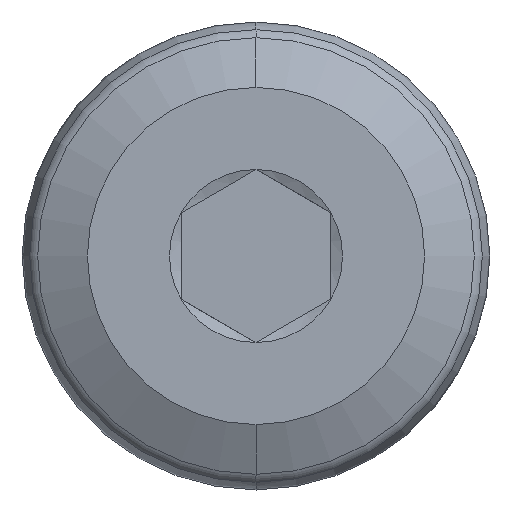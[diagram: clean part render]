
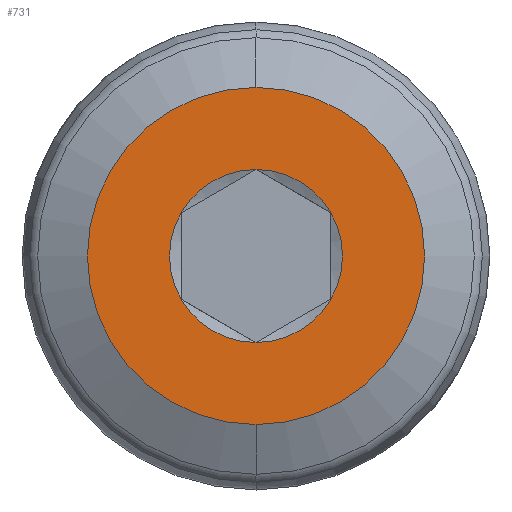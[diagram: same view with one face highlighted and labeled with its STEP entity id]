
A CAD part, left-side view. The second image highlights one B-rep face of the part: STEP entity #731.
In plain terms, the highlighted planar face has unit normal (-1, 0, 0).
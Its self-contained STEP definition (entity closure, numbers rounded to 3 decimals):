
#10 = DIRECTION ( 'NONE',  ( 1., 0., 0. ) ) ;
#25 = CARTESIAN_POINT ( 'NONE',  ( 0., 0., 4.5 ) ) ;
#30 = CARTESIAN_POINT ( 'NONE',  ( 0., 0., 0. ) ) ;
#33 = ORIENTED_EDGE ( 'NONE', *, *, #783, .T. ) ;
#37 = EDGE_CURVE ( 'NONE', #457, #254, #719, .T. ) ;
#49 = EDGE_CURVE ( 'NONE', #381, #290, #637, .T. ) ;
#52 = CARTESIAN_POINT ( 'NONE',  ( 0., 0., -4.5 ) ) ;
#67 = CARTESIAN_POINT ( 'NONE',  ( 0., 0., 0. ) ) ;
#114 = EDGE_CURVE ( 'NONE', #290, #381, #344, .T. ) ;
#166 = VERTEX_POINT ( 'NONE', #226 ) ;
#181 = EDGE_CURVE ( 'NONE', #660, #457, #452, .T. ) ;
#194 = CIRCLE ( 'NONE', #612, 2.309 ) ;
#198 = DIRECTION ( 'NONE',  ( 1., 0., 0. ) ) ;
#202 = CARTESIAN_POINT ( 'NONE',  ( 0., 2., 1.155 ) ) ;
#226 = CARTESIAN_POINT ( 'NONE',  ( 0., -2., -1.155 ) ) ;
#231 = ORIENTED_EDGE ( 'NONE', *, *, #49, .F. ) ;
#236 = DIRECTION ( 'NONE',  ( 0., 0., 1. ) ) ;
#237 = CIRCLE ( 'NONE', #507, 2.309 ) ;
#254 = VERTEX_POINT ( 'NONE', #554 ) ;
#258 = CARTESIAN_POINT ( 'NONE',  ( 0., 0., 0. ) ) ;
#261 = DIRECTION ( 'NONE',  ( 0., 0., -1. ) ) ;
#290 = VERTEX_POINT ( 'NONE', #25 ) ;
#294 = DIRECTION ( 'NONE',  ( 1., 0., 0. ) ) ;
#303 = DIRECTION ( 'NONE',  ( 1., 0., 0. ) ) ;
#308 = DIRECTION ( 'NONE',  ( 1., 0., 0. ) ) ;
#311 = DIRECTION ( 'NONE',  ( 0., 0., -1. ) ) ;
#326 = DIRECTION ( 'NONE',  ( 1., 0., 0. ) ) ;
#337 = VERTEX_POINT ( 'NONE', #627 ) ;
#340 = EDGE_CURVE ( 'NONE', #254, #592, #827, .T. ) ;
#342 = CARTESIAN_POINT ( 'NONE',  ( 0., -2., 1.155 ) ) ;
#344 = CIRCLE ( 'NONE', #622, 4.5 ) ;
#346 = ORIENTED_EDGE ( 'NONE', *, *, #738, .T. ) ;
#367 = CARTESIAN_POINT ( 'NONE',  ( 0., 0., 0. ) ) ;
#381 = VERTEX_POINT ( 'NONE', #52 ) ;
#391 = DIRECTION ( 'NONE',  ( 1., 0., 0. ) ) ;
#393 = ORIENTED_EDGE ( 'NONE', *, *, #340, .T. ) ;
#402 = ORIENTED_EDGE ( 'NONE', *, *, #37, .T. ) ;
#406 = EDGE_CURVE ( 'NONE', #337, #660, #237, .T. ) ;
#424 = CARTESIAN_POINT ( 'NONE',  ( 0., 4.5, 0. ) ) ;
#428 = AXIS2_PLACEMENT_3D ( 'NONE', #617, #308, #311 ) ;
#436 = AXIS2_PLACEMENT_3D ( 'NONE', #67, #326, #578 ) ;
#452 = CIRCLE ( 'NONE', #505, 2.309 ) ;
#457 = VERTEX_POINT ( 'NONE', #202 ) ;
#470 = AXIS2_PLACEMENT_3D ( 'NONE', #367, #691, #501 ) ;
#488 = FACE_OUTER_BOUND ( 'NONE', #599, .T. ) ;
#501 = DIRECTION ( 'NONE',  ( 0., 0., -1. ) ) ;
#503 = DIRECTION ( 'NONE',  ( -1., 0., 0. ) ) ;
#505 = AXIS2_PLACEMENT_3D ( 'NONE', #30, #294, #595 ) ;
#507 = AXIS2_PLACEMENT_3D ( 'NONE', #258, #10, #577 ) ;
#534 = AXIS2_PLACEMENT_3D ( 'NONE', #726, #198, #261 ) ;
#537 = EDGE_LOOP ( 'NONE', ( #402, #393, #33, #346, #642, #703 ) ) ;
#538 = CARTESIAN_POINT ( 'NONE',  ( 0., 2., -1.155 ) ) ;
#554 = CARTESIAN_POINT ( 'NONE',  ( 0., 0., 2.309 ) ) ;
#559 = AXIS2_PLACEMENT_3D ( 'NONE', #424, #503, #236 ) ;
#562 = DIRECTION ( 'NONE',  ( 0., 0., -1. ) ) ;
#577 = DIRECTION ( 'NONE',  ( 0., 0., -1. ) ) ;
#578 = DIRECTION ( 'NONE',  ( 0., 0., -1. ) ) ;
#592 = VERTEX_POINT ( 'NONE', #342 ) ;
#595 = DIRECTION ( 'NONE',  ( 0., 0., -1. ) ) ;
#599 = EDGE_LOOP ( 'NONE', ( #231, #812 ) ) ;
#612 = AXIS2_PLACEMENT_3D ( 'NONE', #696, #303, #562 ) ;
#617 = CARTESIAN_POINT ( 'NONE',  ( 0., 0., 0. ) ) ;
#622 = AXIS2_PLACEMENT_3D ( 'NONE', #708, #391, #804 ) ;
#627 = CARTESIAN_POINT ( 'NONE',  ( 0., 0., -2.309 ) ) ;
#637 = CIRCLE ( 'NONE', #534, 4.5 ) ;
#642 = ORIENTED_EDGE ( 'NONE', *, *, #406, .T. ) ;
#660 = VERTEX_POINT ( 'NONE', #538 ) ;
#691 = DIRECTION ( 'NONE',  ( 1., 0., 0. ) ) ;
#696 = CARTESIAN_POINT ( 'NONE',  ( 0., 0., 0. ) ) ;
#703 = ORIENTED_EDGE ( 'NONE', *, *, #181, .T. ) ;
#708 = CARTESIAN_POINT ( 'NONE',  ( 0., 0., 0. ) ) ;
#719 = CIRCLE ( 'NONE', #436, 2.309 ) ;
#726 = CARTESIAN_POINT ( 'NONE',  ( 0., 0., 0. ) ) ;
#731 = ADVANCED_FACE ( 'NONE', ( #807, #488 ), #743, .T. ) ;
#738 = EDGE_CURVE ( 'NONE', #166, #337, #792, .T. ) ;
#743 = PLANE ( 'NONE',  #559 ) ;
#783 = EDGE_CURVE ( 'NONE', #592, #166, #194, .T. ) ;
#792 = CIRCLE ( 'NONE', #428, 2.309 ) ;
#804 = DIRECTION ( 'NONE',  ( 0., 0., -1. ) ) ;
#807 = FACE_BOUND ( 'NONE', #537, .T. ) ;
#812 = ORIENTED_EDGE ( 'NONE', *, *, #114, .F. ) ;
#827 = CIRCLE ( 'NONE', #470, 2.309 ) ;
